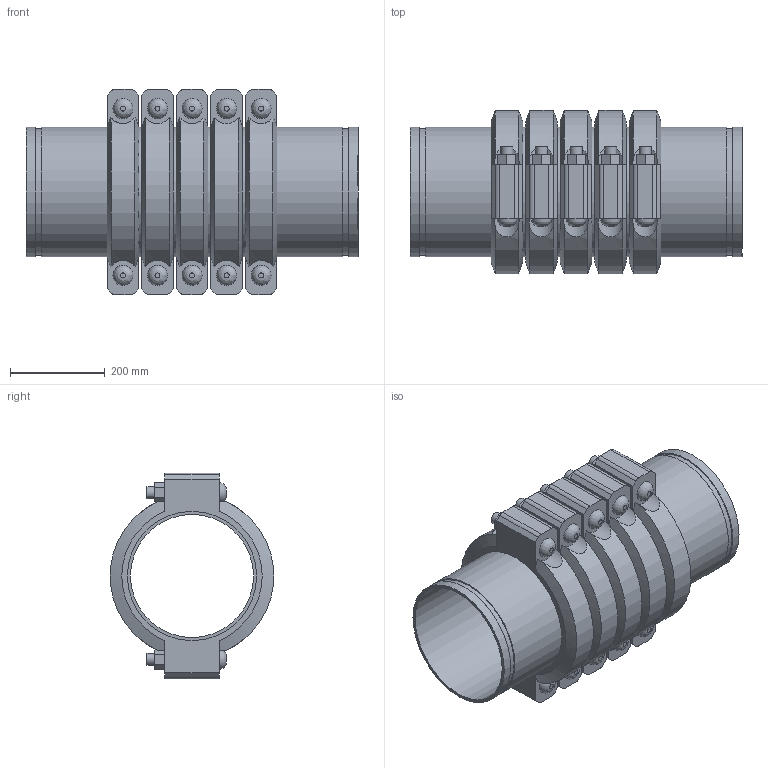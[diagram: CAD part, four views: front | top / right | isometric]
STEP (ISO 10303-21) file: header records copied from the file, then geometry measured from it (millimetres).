
FILE_DESCRIPTION(/* description */ ('VIC SS EXPANSION JOINT 5 COUPLINGS NEUTRAL STYLE 155P (OGS) (POTABLE WATER) ','CAx-IF Rec.Pracs.---Representation and Presentation of Product Manufacturing Information (PMI)---4.0---2014-10-13'),/* implementation_level */ '2;1');
FILE_NAME(/* name */ 'C:\Users\kkamble\AppData\Roaming\Autodesk\ApplicationPlugins\Victaulic.Temp\A327\Victaulic_SS_Expansion Joint_Neutral_5 Couplings_Style 155P (OGS)-Potable Water_5 Coup_Neut_10 (250).stp',/* time_stamp */ '2021-07-16T16:35:04+05:00',/* author */ ('kkamble'),/* organization */ ('Victaulic'),/* preprocessor_version */ 'ST-DEVELOPER v17.2',/* originating_system */ 'Autodesk Inventor 2019',/* authorisation */ '');
FILE_SCHEMA (('AP242_MANAGED_MODEL_BASED_3D_ENGINEERING_MIM_LF { 1 0 10303 442 1 1 4 }'));
Length unit declared in the file: inch
Products named in the file (4): 155P-10.0; Nipple-10.0; Nipple-10.0_1; 077-10.0
Assembly tree (11 placements, depth 2):
  155P-10.0
    Nipple-10.0  x2
    Nipple-10.0_1  x4
    077-10.0  x5
Bounding box: 701.8 x 344.9 x 435.1 mm (x, y, z)
Volume: 18010447.2 mm3; surface area: 2660519.2 mm2
Topology: 11 solids, 21 shells, 377 faces, 905 edges, 634 vertices
Faces by surface type: plane 216, cylinder 131, cone 20, bspline 10
Full cylindrical faces by diameter (mm): 25.4 x20, 27.432 x10, 260.35 x6, 264.16 x5, 268.275 x12, 273.05 x28
Entity records: 3073 total; most frequent: CARTESIAN_POINT 675, DIRECTION 477, ORIENTED_EDGE 410, EDGE_CURVE 205, AXIS2_PLACEMENT_3D 194, VERTEX_POINT 146, EDGE_LOOP 111, CIRCLE 96
